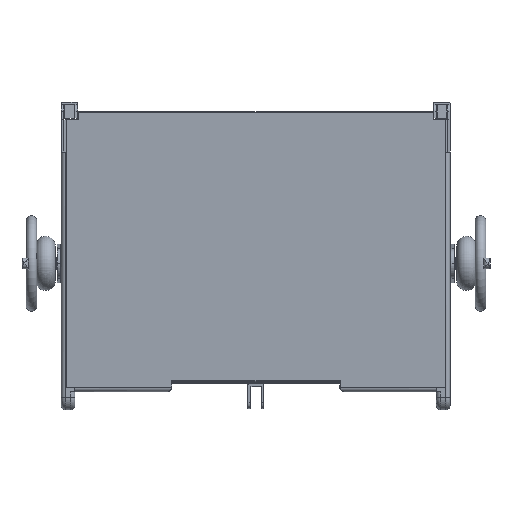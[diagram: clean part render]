
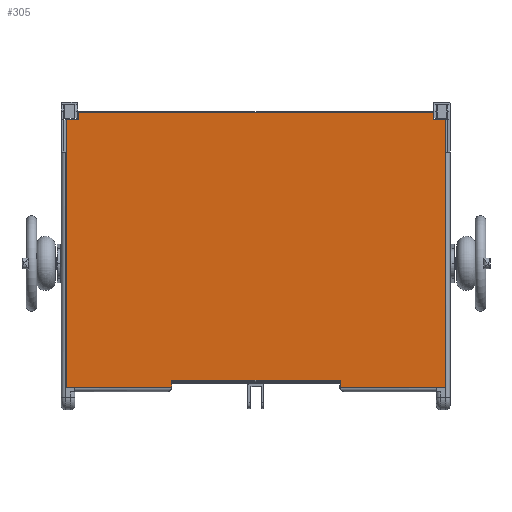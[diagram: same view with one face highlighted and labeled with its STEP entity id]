
A CAD part, front view. The second image highlights one B-rep face of the part: STEP entity #305.
In plain terms, the highlighted planar face has unit normal (0, -0.998, -0.061) as drawn and (0, 0.061, -0.998) by its records, which use the part's own axes.
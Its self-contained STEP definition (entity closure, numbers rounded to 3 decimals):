
#296 = VERTEX_POINT ( 'NONE', #992 ) ;
#297 = ORIENTED_EDGE ( 'NONE', *, *, #24655, .T. ) ;
#298 = ORIENTED_EDGE ( 'NONE', *, *, #300, .F. ) ;
#299 = ORIENTED_EDGE ( 'NONE', *, *, #410, .T. ) ;
#300 = EDGE_CURVE ( 'NONE', #24637, #296, #991, .T. ) ;
#301 = EDGE_LOOP ( 'NONE', ( #298, #297, #299, #367, #391, #380, #372, #373, #450, #445, #434, #382 ) ) ;
#305 = ADVANCED_FACE ( 'NONE', ( #985 ), #984, .T. ) ;
#354 = VERTEX_POINT ( 'NONE', #1092 ) ;
#367 = ORIENTED_EDGE ( 'NONE', *, *, #24638, .T. ) ;
#369 = EDGE_CURVE ( 'NONE', #370, #354, #1105, .T. ) ;
#370 = VERTEX_POINT ( 'NONE', #1176 ) ;
#372 = ORIENTED_EDGE ( 'NONE', *, *, #374, .T. ) ;
#373 = ORIENTED_EDGE ( 'NONE', *, *, #369, .T. ) ;
#374 = EDGE_CURVE ( 'NONE', #375, #370, #1175, .T. ) ;
#375 = VERTEX_POINT ( 'NONE', #1171 ) ;
#376 = EDGE_CURVE ( 'NONE', #375, #379, #1170, .T. ) ;
#379 = VERTEX_POINT ( 'NONE', #1166 ) ;
#380 = ORIENTED_EDGE ( 'NONE', *, *, #376, .F. ) ;
#382 = ORIENTED_EDGE ( 'NONE', *, *, #429, .T. ) ;
#383 = VERTEX_POINT ( 'NONE', #1165 ) ;
#391 = ORIENTED_EDGE ( 'NONE', *, *, #392, .T. ) ;
#392 = EDGE_CURVE ( 'NONE', #24639, #379, #1204, .T. ) ;
#410 = EDGE_CURVE ( 'NONE', #24651, #24629, #1221, .T. ) ;
#429 = EDGE_CURVE ( 'NONE', #383, #296, #1305, .T. ) ;
#434 = ORIENTED_EDGE ( 'NONE', *, *, #438, .T. ) ;
#438 = EDGE_CURVE ( 'NONE', #447, #383, #1284, .T. ) ;
#445 = ORIENTED_EDGE ( 'NONE', *, *, #446, .F. ) ;
#446 = EDGE_CURVE ( 'NONE', #447, #452, #1330, .T. ) ;
#447 = VERTEX_POINT ( 'NONE', #1326 ) ;
#450 = ORIENTED_EDGE ( 'NONE', *, *, #454, .T. ) ;
#452 = VERTEX_POINT ( 'NONE', #1318 ) ;
#454 = EDGE_CURVE ( 'NONE', #354, #452, #1313, .T. ) ;
#979 = DIRECTION ( 'NONE',  ( 0., 0.998, 0.061 ) ) ;
#980 = DIRECTION ( 'NONE',  ( 0., 0.061, -0.998 ) ) ;
#981 = CARTESIAN_POINT ( 'NONE',  ( -100.705, -115.073, -328.124 ) ) ;
#982 = AXIS2_PLACEMENT_3D ( 'NONE', #981, #980, #979 ) ;
#984 = PLANE ( 'NONE',  #982 ) ;
#985 = FACE_OUTER_BOUND ( 'NONE', #301, .T. ) ;
#988 = DIRECTION ( 'NONE',  ( 0., -0.998, -0.061 ) ) ;
#989 = VECTOR ( 'NONE', #988, 1000. ) ;
#990 = CARTESIAN_POINT ( 'NONE',  ( -101.705, 309.634, -302.148 ) ) ;
#991 = LINE ( 'NONE', #990, #989 ) ;
#992 = CARTESIAN_POINT ( 'NONE',  ( -101.705, -103.095, -327.391 ) ) ;
#1092 = CARTESIAN_POINT ( 'NONE',  ( 464.295, -103.095, -327.391 ) ) ;
#1105 = LINE ( 'NONE', #1179, #1178 ) ;
#1165 = CARTESIAN_POINT ( 'NONE',  ( -82.705, -103.095, -327.391 ) ) ;
#1166 = CARTESIAN_POINT ( 'NONE',  ( 320.795, 310.632, -302.087 ) ) ;
#1167 = DIRECTION ( 'NONE',  ( -1., 0., 0. ) ) ;
#1168 = VECTOR ( 'NONE', #1167, 1000. ) ;
#1169 = CARTESIAN_POINT ( 'NONE',  ( 320.795, 310.632, -302.087 ) ) ;
#1170 = LINE ( 'NONE', #1169, #1168 ) ;
#1171 = CARTESIAN_POINT ( 'NONE',  ( 483.295, 310.632, -302.087 ) ) ;
#1172 = DIRECTION ( 'NONE',  ( 0., -0.998, -0.061 ) ) ;
#1173 = VECTOR ( 'NONE', #1172, 1000. ) ;
#1174 = CARTESIAN_POINT ( 'NONE',  ( 483.295, 310.632, -302.087 ) ) ;
#1175 = LINE ( 'NONE', #1174, #1173 ) ;
#1176 = CARTESIAN_POINT ( 'NONE',  ( 483.295, -103.095, -327.391 ) ) ;
#1177 = DIRECTION ( 'NONE',  ( -1., 0., 0. ) ) ;
#1178 = VECTOR ( 'NONE', #1177, 1000. ) ;
#1179 = CARTESIAN_POINT ( 'NONE',  ( 482.295, -103.095, -327.391 ) ) ;
#1201 = DIRECTION ( 'NONE',  ( 0., 0.998, 0.061 ) ) ;
#1202 = VECTOR ( 'NONE', #1201, 1000. ) ;
#1203 = CARTESIAN_POINT ( 'NONE',  ( 320.795, 299.159, -302.788 ) ) ;
#1204 = LINE ( 'NONE', #1203, #1202 ) ;
#1218 = DIRECTION ( 'NONE',  ( 0., -0.998, -0.061 ) ) ;
#1219 = VECTOR ( 'NONE', #1218, 1000. ) ;
#1220 = CARTESIAN_POINT ( 'NONE',  ( 60.795, 309.634, -302.148 ) ) ;
#1221 = LINE ( 'NONE', #1220, #1219 ) ;
#1281 = DIRECTION ( 'NONE',  ( 0., 0.998, 0.061 ) ) ;
#1282 = VECTOR ( 'NONE', #1281, 1000. ) ;
#1283 = CARTESIAN_POINT ( 'NONE',  ( -82.705, -113.575, -328.032 ) ) ;
#1284 = LINE ( 'NONE', #1283, #1282 ) ;
#1302 = DIRECTION ( 'NONE',  ( -1., 0., 0. ) ) ;
#1303 = VECTOR ( 'NONE', #1302, 1000. ) ;
#1304 = CARTESIAN_POINT ( 'NONE',  ( -100.705, -103.095, -327.391 ) ) ;
#1305 = LINE ( 'NONE', #1304, #1303 ) ;
#1309 = DIRECTION ( 'NONE',  ( 0., -0.998, -0.061 ) ) ;
#1311 = VECTOR ( 'NONE', #1309, 1000. ) ;
#1312 = CARTESIAN_POINT ( 'NONE',  ( 464.295, -103.095, -327.391 ) ) ;
#1313 = LINE ( 'NONE', #1312, #1311 ) ;
#1318 = CARTESIAN_POINT ( 'NONE',  ( 464.295, -113.575, -328.032 ) ) ;
#1326 = CARTESIAN_POINT ( 'NONE',  ( -82.705, -113.575, -328.032 ) ) ;
#1327 = DIRECTION ( 'NONE',  ( 1., 0., 0. ) ) ;
#1328 = VECTOR ( 'NONE', #1327, 1000. ) ;
#1329 = CARTESIAN_POINT ( 'NONE',  ( -100.705, -113.575, -328.032 ) ) ;
#1330 = LINE ( 'NONE', #1329, #1328 ) ;
#22459 = CARTESIAN_POINT ( 'NONE',  ( 60.795, 299.159, -302.788 ) ) ;
#22495 = CARTESIAN_POINT ( 'NONE',  ( 320.795, 299.159, -302.788 ) ) ;
#22496 = DIRECTION ( 'NONE',  ( 1., 0., 0. ) ) ;
#22497 = VECTOR ( 'NONE', #22496, 1000. ) ;
#22498 = CARTESIAN_POINT ( 'NONE',  ( -100.705, 299.159, -302.788 ) ) ;
#22499 = LINE ( 'NONE', #22498, #22497 ) ;
#22500 = CARTESIAN_POINT ( 'NONE',  ( -101.705, 309.634, -302.148 ) ) ;
#22533 = DIRECTION ( 'NONE',  ( 1., 0., 0. ) ) ;
#22534 = VECTOR ( 'NONE', #22533, 1000. ) ;
#22535 = CARTESIAN_POINT ( 'NONE',  ( -100.705, 309.634, -302.148 ) ) ;
#22536 = LINE ( 'NONE', #22535, #22534 ) ;
#22537 = CARTESIAN_POINT ( 'NONE',  ( 60.795, 309.634, -302.148 ) ) ;
#24629 = VERTEX_POINT ( 'NONE', #22459 ) ;
#24637 = VERTEX_POINT ( 'NONE', #22500 ) ;
#24638 = EDGE_CURVE ( 'NONE', #24629, #24639, #22499, .T. ) ;
#24639 = VERTEX_POINT ( 'NONE', #22495 ) ;
#24651 = VERTEX_POINT ( 'NONE', #22537 ) ;
#24655 = EDGE_CURVE ( 'NONE', #24637, #24651, #22536, .T. ) ;
